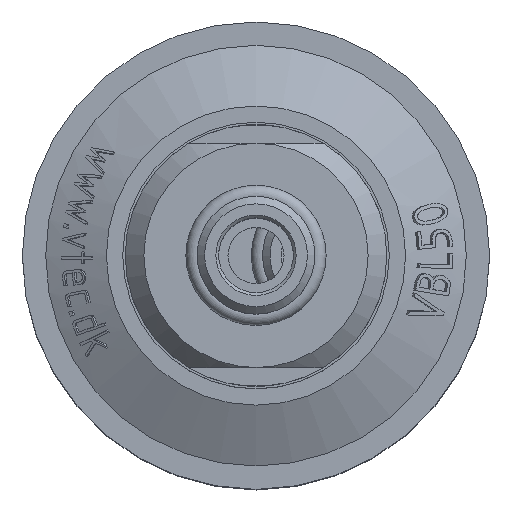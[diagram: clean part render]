
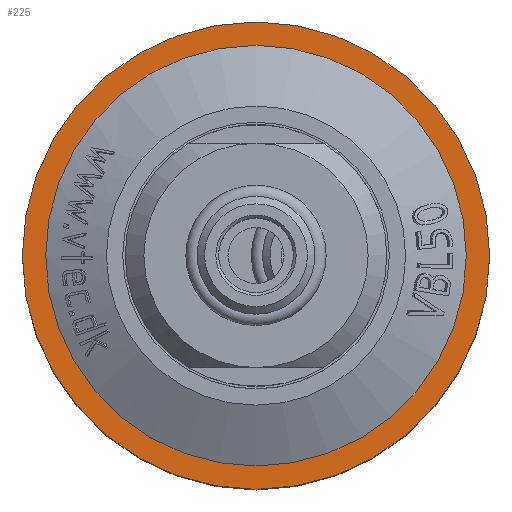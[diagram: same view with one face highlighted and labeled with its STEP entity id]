
A CAD part, top view. The second image highlights one B-rep face of the part: STEP entity #225.
In plain terms, the highlighted planar face has unit normal (0, 0, 1).
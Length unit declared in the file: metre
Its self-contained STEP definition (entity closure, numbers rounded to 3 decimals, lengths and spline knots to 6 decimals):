
#225 = ADVANCED_FACE( '', ( #532, #533 ), #534, .F. );
#532 = FACE_OUTER_BOUND( '', #2770, .T. );
#533 = FACE_BOUND( '', #2771, .T. );
#534 = PLANE( '', #2772 );
#2770 = EDGE_LOOP( '', ( #6615 ) );
#2771 = EDGE_LOOP( '', ( #6616 ) );
#2772 = AXIS2_PLACEMENT_3D( '', #6617, #6618, #6619 );
#6615 = ORIENTED_EDGE( '', *, *, #7722, .F. );
#6616 = ORIENTED_EDGE( '', *, *, #7565, .T. );
#6617 = CARTESIAN_POINT( '', ( -0.0225, 0., 0.0145 ) );
#6618 = DIRECTION( '', ( 0., 0., -1. ) );
#6619 = DIRECTION( '', ( -1., 0., 0. ) );
#7565 = EDGE_CURVE( '', #8105, #8105, #8106, .T. );
#7722 = EDGE_CURVE( '', #8382, #8382, #8383, .T. );
#8105 = VERTEX_POINT( '', #9372 );
#8106 = CIRCLE( '', #9373, 0.0225 );
#8382 = VERTEX_POINT( '', #10735 );
#8383 = CIRCLE( '', #10736, 0.025 );
#9372 = CARTESIAN_POINT( '', ( -0.0225, 0., 0.0145 ) );
#9373 = AXIS2_PLACEMENT_3D( '', #11997, #11998, #11999 );
#10735 = CARTESIAN_POINT( '', ( -0.025, 0., 0.0145 ) );
#10736 = AXIS2_PLACEMENT_3D( '', #12034, #12035, #12036 );
#11997 = CARTESIAN_POINT( '', ( 0., 0., 0.0145 ) );
#11998 = DIRECTION( '', ( 0., 0., -1. ) );
#11999 = DIRECTION( '', ( -1., 0., 0. ) );
#12034 = CARTESIAN_POINT( '', ( 0., 0., 0.0145 ) );
#12035 = DIRECTION( '', ( 0., 0., -1. ) );
#12036 = DIRECTION( '', ( -1., 0., 0. ) );
